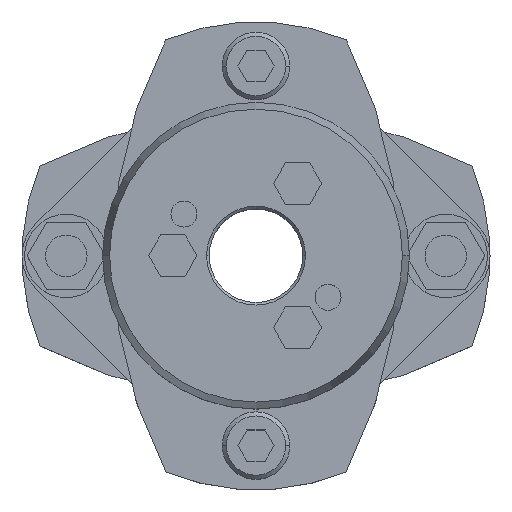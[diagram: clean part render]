
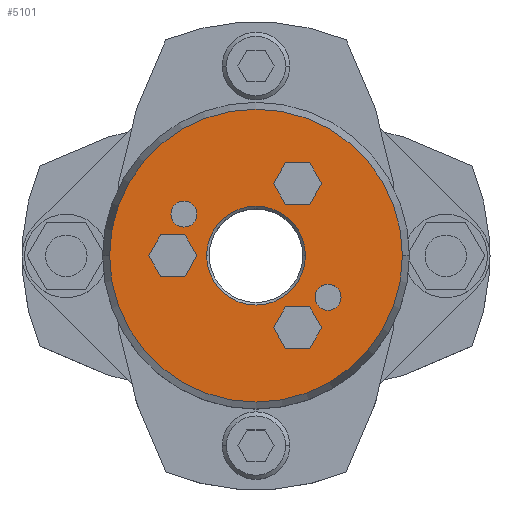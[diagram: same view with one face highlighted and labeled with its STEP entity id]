
A CAD part, top view. The second image highlights one B-rep face of the part: STEP entity #5101.
In plain terms, the highlighted planar face has unit normal (0, 0, 1).
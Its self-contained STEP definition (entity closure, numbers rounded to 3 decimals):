
#857=CARTESIAN_POINT('',(-9.5,0.,39.25));
#858=VERTEX_POINT('',#857);
#874=CARTESIAN_POINT('',(9.5,0.,39.25));
#875=VERTEX_POINT('',#874);
#882=CARTESIAN_POINT('',(0.,0.,39.25));
#883=DIRECTION('',(0.0,0.0,1.0));
#884=DIRECTION('',(-1.0,0.0,0.0));
#885=AXIS2_PLACEMENT_3D('',#882,#883,#884);
#886=CIRCLE('',#885,9.5);
#887=EDGE_CURVE('',#875,#858,#886,.T.);
#1045=CARTESIAN_POINT('',(28.16,0.,39.25));
#1046=VERTEX_POINT('',#1045);
#1053=CARTESIAN_POINT('',(-28.16,0.,39.25));
#1054=VERTEX_POINT('',#1053);
#1055=CARTESIAN_POINT('',(0.,0.,39.25));
#1056=DIRECTION('',(0.0,0.0,-1.0));
#1057=DIRECTION('',(1.0,0.0,0.0));
#1058=AXIS2_PLACEMENT_3D('',#1055,#1056,#1057);
#1059=CIRCLE('',#1058,28.16);
#1060=EDGE_CURVE('',#1046,#1054,#1059,.T.);
#1303=CARTESIAN_POINT('',(-16.356,8.,39.25));
#1304=VERTEX_POINT('',#1303);
#1320=CARTESIAN_POINT('',(-11.356,8.,39.25));
#1321=VERTEX_POINT('',#1320);
#1328=CARTESIAN_POINT('',(-13.856,8.,39.25));
#1329=DIRECTION('',(0.0,0.0,-1.0));
#1330=DIRECTION('',(-1.0,0.0,0.0));
#1331=AXIS2_PLACEMENT_3D('',#1328,#1329,#1330);
#1332=CIRCLE('',#1331,2.5);
#1333=EDGE_CURVE('',#1304,#1321,#1332,.T.);
#1345=CARTESIAN_POINT('',(11.356,-8.,39.25));
#1346=VERTEX_POINT('',#1345);
#1362=CARTESIAN_POINT('',(16.356,-8.,39.25));
#1363=VERTEX_POINT('',#1362);
#1370=CARTESIAN_POINT('',(13.856,-8.,39.25));
#1371=DIRECTION('',(0.0,0.0,-1.0));
#1372=DIRECTION('',(-1.0,0.0,0.0));
#1373=AXIS2_PLACEMENT_3D('',#1370,#1371,#1372);
#1374=CIRCLE('',#1373,2.5);
#1375=EDGE_CURVE('',#1346,#1363,#1374,.T.);
#3617=CARTESIAN_POINT('',(3.381,13.856,39.25));
#3618=VERTEX_POINT('',#3617);
#3625=CARTESIAN_POINT('',(5.691,9.856,39.25));
#3626=VERTEX_POINT('',#3625);
#3627=CARTESIAN_POINT('',(5.691,9.856,39.25));
#3628=DIRECTION('',(-0.5,0.866,0.0));
#3629=VECTOR('',#3628,4.619);
#3630=LINE('',#3627,#3629);
#3631=EDGE_CURVE('',#3626,#3618,#3630,.T.);
#3655=CARTESIAN_POINT('',(5.691,17.856,39.25));
#3656=VERTEX_POINT('',#3655);
#3663=CARTESIAN_POINT('',(3.381,13.856,39.25));
#3664=DIRECTION('',(0.5,0.866,0.0));
#3665=VECTOR('',#3664,4.619);
#3666=LINE('',#3663,#3665);
#3667=EDGE_CURVE('',#3618,#3656,#3666,.T.);
#3686=CARTESIAN_POINT('',(10.309,17.856,39.25));
#3687=VERTEX_POINT('',#3686);
#3694=CARTESIAN_POINT('',(5.691,17.856,39.25));
#3695=DIRECTION('',(1.0,0.0,0.0));
#3696=VECTOR('',#3695,4.619);
#3697=LINE('',#3694,#3696);
#3698=EDGE_CURVE('',#3656,#3687,#3697,.T.);
#3717=CARTESIAN_POINT('',(12.619,13.856,39.25));
#3718=VERTEX_POINT('',#3717);
#3725=CARTESIAN_POINT('',(10.309,17.856,39.25));
#3726=DIRECTION('',(0.5,-0.866,0.0));
#3727=VECTOR('',#3726,4.619);
#3728=LINE('',#3725,#3727);
#3729=EDGE_CURVE('',#3687,#3718,#3728,.T.);
#3748=CARTESIAN_POINT('',(10.309,9.856,39.25));
#3749=VERTEX_POINT('',#3748);
#3756=CARTESIAN_POINT('',(12.619,13.856,39.25));
#3757=DIRECTION('',(-0.5,-0.866,0.0));
#3758=VECTOR('',#3757,4.619);
#3759=LINE('',#3756,#3758);
#3760=EDGE_CURVE('',#3718,#3749,#3759,.T.);
#3778=CARTESIAN_POINT('',(10.309,9.856,39.25));
#3779=DIRECTION('',(-1.0,0.0,0.0));
#3780=VECTOR('',#3779,4.619);
#3781=LINE('',#3778,#3780);
#3782=EDGE_CURVE('',#3749,#3626,#3781,.T.);
#3817=CARTESIAN_POINT('',(-20.619,0.,39.25));
#3818=VERTEX_POINT('',#3817);
#3825=CARTESIAN_POINT('',(-18.309,-4.,39.25));
#3826=VERTEX_POINT('',#3825);
#3827=CARTESIAN_POINT('',(-18.309,-4.,39.25));
#3828=DIRECTION('',(-0.5,0.866,0.0));
#3829=VECTOR('',#3828,4.619);
#3830=LINE('',#3827,#3829);
#3831=EDGE_CURVE('',#3826,#3818,#3830,.T.);
#3855=CARTESIAN_POINT('',(-18.309,4.,39.25));
#3856=VERTEX_POINT('',#3855);
#3863=CARTESIAN_POINT('',(-20.619,0.,39.25));
#3864=DIRECTION('',(0.5,0.866,0.0));
#3865=VECTOR('',#3864,4.619);
#3866=LINE('',#3863,#3865);
#3867=EDGE_CURVE('',#3818,#3856,#3866,.T.);
#3886=CARTESIAN_POINT('',(-13.691,4.,39.25));
#3887=VERTEX_POINT('',#3886);
#3894=CARTESIAN_POINT('',(-18.309,4.,39.25));
#3895=DIRECTION('',(1.0,0.0,0.0));
#3896=VECTOR('',#3895,4.619);
#3897=LINE('',#3894,#3896);
#3898=EDGE_CURVE('',#3856,#3887,#3897,.T.);
#3917=CARTESIAN_POINT('',(-11.381,0.,39.25));
#3918=VERTEX_POINT('',#3917);
#3925=CARTESIAN_POINT('',(-13.691,4.,39.25));
#3926=DIRECTION('',(0.5,-0.866,0.0));
#3927=VECTOR('',#3926,4.619);
#3928=LINE('',#3925,#3927);
#3929=EDGE_CURVE('',#3887,#3918,#3928,.T.);
#3948=CARTESIAN_POINT('',(-13.691,-4.,39.25));
#3949=VERTEX_POINT('',#3948);
#3956=CARTESIAN_POINT('',(-11.381,0.,39.25));
#3957=DIRECTION('',(-0.5,-0.866,0.0));
#3958=VECTOR('',#3957,4.619);
#3959=LINE('',#3956,#3958);
#3960=EDGE_CURVE('',#3918,#3949,#3959,.T.);
#3978=CARTESIAN_POINT('',(-13.691,-4.,39.25));
#3979=DIRECTION('',(-1.0,0.0,0.0));
#3980=VECTOR('',#3979,4.619);
#3981=LINE('',#3978,#3980);
#3982=EDGE_CURVE('',#3949,#3826,#3981,.T.);
#4017=CARTESIAN_POINT('',(3.381,-13.856,39.25));
#4018=VERTEX_POINT('',#4017);
#4025=CARTESIAN_POINT('',(5.691,-17.856,39.25));
#4026=VERTEX_POINT('',#4025);
#4027=CARTESIAN_POINT('',(5.691,-17.856,39.25));
#4028=DIRECTION('',(-0.5,0.866,0.0));
#4029=VECTOR('',#4028,4.619);
#4030=LINE('',#4027,#4029);
#4031=EDGE_CURVE('',#4026,#4018,#4030,.T.);
#4055=CARTESIAN_POINT('',(5.691,-9.856,39.25));
#4056=VERTEX_POINT('',#4055);
#4063=CARTESIAN_POINT('',(3.381,-13.856,39.25));
#4064=DIRECTION('',(0.5,0.866,0.0));
#4065=VECTOR('',#4064,4.619);
#4066=LINE('',#4063,#4065);
#4067=EDGE_CURVE('',#4018,#4056,#4066,.T.);
#4086=CARTESIAN_POINT('',(10.309,-9.856,39.25));
#4087=VERTEX_POINT('',#4086);
#4094=CARTESIAN_POINT('',(5.691,-9.856,39.25));
#4095=DIRECTION('',(1.0,0.0,0.0));
#4096=VECTOR('',#4095,4.619);
#4097=LINE('',#4094,#4096);
#4098=EDGE_CURVE('',#4056,#4087,#4097,.T.);
#4117=CARTESIAN_POINT('',(12.619,-13.856,39.25));
#4118=VERTEX_POINT('',#4117);
#4125=CARTESIAN_POINT('',(10.309,-9.856,39.25));
#4126=DIRECTION('',(0.5,-0.866,0.0));
#4127=VECTOR('',#4126,4.619);
#4128=LINE('',#4125,#4127);
#4129=EDGE_CURVE('',#4087,#4118,#4128,.T.);
#4148=CARTESIAN_POINT('',(10.309,-17.856,39.25));
#4149=VERTEX_POINT('',#4148);
#4156=CARTESIAN_POINT('',(12.619,-13.856,39.25));
#4157=DIRECTION('',(-0.5,-0.866,0.0));
#4158=VECTOR('',#4157,4.619);
#4159=LINE('',#4156,#4158);
#4160=EDGE_CURVE('',#4118,#4149,#4159,.T.);
#4178=CARTESIAN_POINT('',(10.309,-17.856,39.25));
#4179=DIRECTION('',(-1.0,0.0,0.0));
#4180=VECTOR('',#4179,4.619);
#4181=LINE('',#4178,#4180);
#4182=EDGE_CURVE('',#4149,#4026,#4181,.T.);
#4208=CARTESIAN_POINT('',(13.856,-8.,39.25));
#4209=DIRECTION('',(0.0,0.0,-1.0));
#4210=DIRECTION('',(-1.0,0.0,0.0));
#4211=AXIS2_PLACEMENT_3D('',#4208,#4209,#4210);
#4212=CIRCLE('',#4211,2.5);
#4213=EDGE_CURVE('',#1363,#1346,#4212,.T.);
#4242=CARTESIAN_POINT('',(-13.856,8.,39.25));
#4243=DIRECTION('',(0.0,0.0,-1.0));
#4244=DIRECTION('',(-1.0,0.0,0.0));
#4245=AXIS2_PLACEMENT_3D('',#4242,#4243,#4244);
#4246=CIRCLE('',#4245,2.5);
#4247=EDGE_CURVE('',#1321,#1304,#4246,.T.);
#5040=CARTESIAN_POINT('',(0.,0.,39.25));
#5041=DIRECTION('',(0.0,0.0,-1.0));
#5042=DIRECTION('',(1.0,0.0,0.0));
#5043=AXIS2_PLACEMENT_3D('',#5040,#5041,#5042);
#5044=CIRCLE('',#5043,28.16);
#5045=EDGE_CURVE('',#1054,#1046,#5044,.T.);
#5050=CARTESIAN_POINT('',(-2.682,0.,39.25));
#5051=DIRECTION('',(0.0,0.0,1.0));
#5052=DIRECTION('',(-1.0,0.0,0.0));
#5053=AXIS2_PLACEMENT_3D('',#5050,#5051,#5052);
#5054=PLANE('',#5053);
#5055=ORIENTED_EDGE('',*,*,#5045,.F.);
#5056=ORIENTED_EDGE('',*,*,#1060,.F.);
#5057=EDGE_LOOP('',(#5055,#5056));
#5058=FACE_OUTER_BOUND('',#5057,.T.);
#5059=ORIENTED_EDGE('',*,*,#3631,.T.);
#5060=ORIENTED_EDGE('',*,*,#3667,.T.);
#5061=ORIENTED_EDGE('',*,*,#3698,.T.);
#5062=ORIENTED_EDGE('',*,*,#3729,.T.);
#5063=ORIENTED_EDGE('',*,*,#3760,.T.);
#5064=ORIENTED_EDGE('',*,*,#3782,.T.);
#5065=EDGE_LOOP('',(#5059,#5060,#5061,#5062,#5063,#5064));
#5066=FACE_BOUND('',#5065,.T.);
#5067=ORIENTED_EDGE('',*,*,#3831,.T.);
#5068=ORIENTED_EDGE('',*,*,#3867,.T.);
#5069=ORIENTED_EDGE('',*,*,#3898,.T.);
#5070=ORIENTED_EDGE('',*,*,#3929,.T.);
#5071=ORIENTED_EDGE('',*,*,#3960,.T.);
#5072=ORIENTED_EDGE('',*,*,#3982,.T.);
#5073=EDGE_LOOP('',(#5067,#5068,#5069,#5070,#5071,#5072));
#5074=FACE_BOUND('',#5073,.T.);
#5075=ORIENTED_EDGE('',*,*,#4031,.T.);
#5076=ORIENTED_EDGE('',*,*,#4067,.T.);
#5077=ORIENTED_EDGE('',*,*,#4098,.T.);
#5078=ORIENTED_EDGE('',*,*,#4129,.T.);
#5079=ORIENTED_EDGE('',*,*,#4160,.T.);
#5080=ORIENTED_EDGE('',*,*,#4182,.T.);
#5081=EDGE_LOOP('',(#5075,#5076,#5077,#5078,#5079,#5080));
#5082=FACE_BOUND('',#5081,.T.);
#5083=ORIENTED_EDGE('',*,*,#1375,.T.);
#5084=ORIENTED_EDGE('',*,*,#4213,.T.);
#5085=EDGE_LOOP('',(#5083,#5084));
#5086=FACE_BOUND('',#5085,.T.);
#5087=ORIENTED_EDGE('',*,*,#1333,.T.);
#5088=ORIENTED_EDGE('',*,*,#4247,.T.);
#5089=EDGE_LOOP('',(#5087,#5088));
#5090=FACE_BOUND('',#5089,.T.);
#5091=ORIENTED_EDGE('',*,*,#887,.F.);
#5092=CARTESIAN_POINT('',(0.,0.,39.25));
#5093=DIRECTION('',(0.0,0.0,1.0));
#5094=DIRECTION('',(-1.0,0.0,0.0));
#5095=AXIS2_PLACEMENT_3D('',#5092,#5093,#5094);
#5096=CIRCLE('',#5095,9.5);
#5097=EDGE_CURVE('',#858,#875,#5096,.T.);
#5098=ORIENTED_EDGE('',*,*,#5097,.F.);
#5099=EDGE_LOOP('',(#5091,#5098));
#5100=FACE_BOUND('',#5099,.T.);
#5101=ADVANCED_FACE('',(#5058,#5066,#5074,#5082,#5086,#5090,#5100),#5054,.T.);
